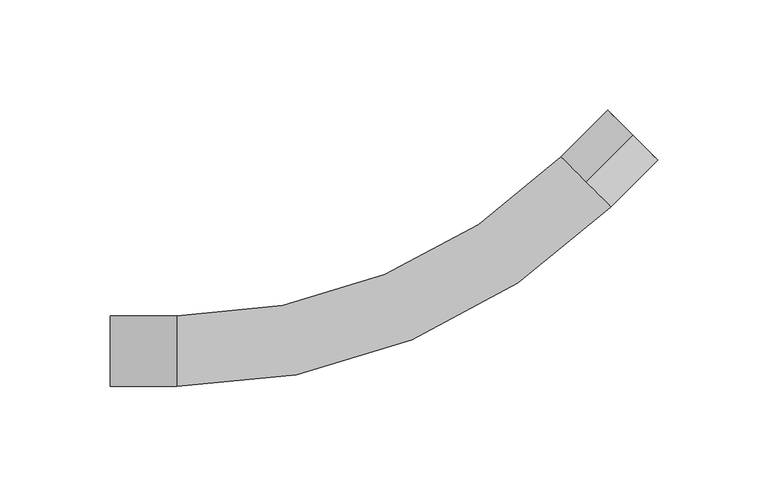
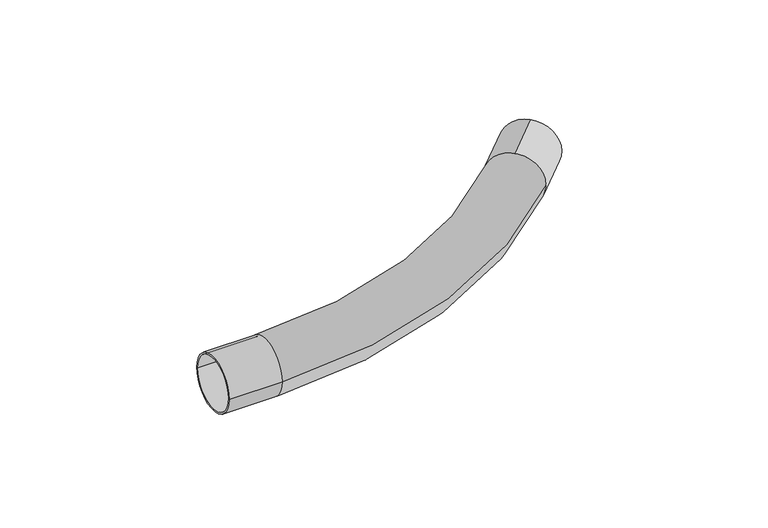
"""IFC4 building model written with IfcOpenShell, lengths in millimetres: cable carrier fitting geometry, КНС_МуфтаГибкаяТрубаТруба_IP64_DKC : Коробка."""

from ifc_helpers import new_model, si_unit, point, frame, origin, place, context, project, spatial, polyline, circle_curve, ellipse_curve, trimmed, source, transform, mapped, element, save
from ifc_brep_helpers import plane_surface, cylinder_surface, revolved_surface, advanced_brep


def cable_carrier_fitting_6df9b579(model_context):
    return source(origin(), model_context, "Body", "AdvancedBrep", [
        advanced_brep(
        [(-138.642976, -16.0, 0.0), (-138.642976, 16.0, 0.0), (-138.642976, -15.0, 0.0), (-138.642976, 15.0, 0.0), (-108.642976, -16.0, 0.0), (-108.642976, 16.0, 0.0), (-108.642976, -15.0, 0.0), (-108.642976, 15.0, 0.0), (76.8221851, 76.8221851, 15.0), (76.8221851, 76.8221851, -15.0), (88.1358936, 65.5084766, 0.0), (76.8221851, 76.8221851, 16.0), (65.5084766, 88.1358936, 0.0), (76.8221851, 76.8221851, -16.0), (98.0353885, 98.0353885, -16.0), (98.0353885, 98.0353885, 16.0), (98.0353885, 98.0353885, -15.0), (98.0353885, 98.0353885, 15.0)],
        [
            (0, 1, circle_curve(frame((-138.642976, 0.0, 0.0), z_axis=(-1.0, 0.0, 0.0), x_axis=(0.0, 1.0, 0.0)), 16.0)),
            (1, 0, circle_curve(frame((-138.642976, 0.0, 0.0), z_axis=(-1.0, 0.0, 0.0), x_axis=(0.0, 1.0, 0.0)), 16.0)),
            (2, 3, circle_curve(frame((-138.642976, 0.0, 0.0), z_axis=(1.0, 0.0, 0.0), x_axis=(0.0, 1.0, 0.0)), 15.0)),
            (3, 2, circle_curve(frame((-138.642976, 0.0, 0.0), z_axis=(1.0, 0.0, 0.0), x_axis=(0.0, 1.0, 0.0)), 15.0)),
            (0, 4),
            (4, 5, circle_curve(frame((-108.642976, 0.0, 0.0), z_axis=(-1.0, 0.0, 0.0), x_axis=(0.0, 1.0, 0.0)), 16.0)),
            (5, 1),
            (5, 4, circle_curve(frame((-108.642976, 0.0, 0.0), z_axis=(-1.0, 0.0, 0.0), x_axis=(0.0, 1.0, 0.0)), 16.0)),
            (2, 6),
            (6, 7, circle_curve(frame((-108.642976, 0.0, 0.0), z_axis=(1.0, 0.0, 0.0), x_axis=(0.0, 1.0, 0.0)), 15.0)),
            (7, 3),
            (7, 6, circle_curve(frame((-108.642976, 0.0, 0.0), z_axis=(1.0, 0.0, 0.0), x_axis=(0.0, 1.0, 0.0)), 15.0)),
            (8, 9, circle_curve(frame((76.8221851, 76.8221851, 0.0), z_axis=(0.7071067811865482, 0.707106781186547, 0.0), x_axis=(0.0, 0.0, 1.0)), 15.0)),
            (9, 8, circle_curve(frame((76.8221851, 76.8221851, 0.0), z_axis=(0.7071067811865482, 0.707106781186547, 0.0), x_axis=(0.0, 0.0, 1.0)), 15.0)),
            (4, 10, circle_curve(frame((-108.642976, 262.2873462, 0.0), z_axis=(0.0, 0.0, 1.0), x_axis=(0.7071067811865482, -0.7071067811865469, 0.0)), 278.2873462)),
            (10, 11, circle_curve(frame((76.8221851, 76.8221851, 0.0), z_axis=(-0.7071067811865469, -0.7071067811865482, 0.0), x_axis=(0.7071067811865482, -0.7071067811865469, 0.0)), 16.0)),
            (11, 12, circle_curve(frame((76.8221851, 76.8221851, 0.0), z_axis=(-0.7071067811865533, -0.7071067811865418, 0.0), x_axis=(0.7071067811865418, -0.7071067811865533, 0.0)), 16.0)),
            (12, 5, circle_curve(frame((-108.642976, 262.2873462, 0.0), z_axis=(0.0, 0.0, -1.0), x_axis=(0.7071067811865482, -0.7071067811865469, 0.0)), 246.2873462)),
            (12, 13, circle_curve(frame((76.8221851, 76.8221851, 0.0), z_axis=(-0.7071067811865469, -0.7071067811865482, 0.0), x_axis=(0.7071067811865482, -0.7071067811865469, 0.0)), 16.0)),
            (13, 10, circle_curve(frame((76.8221851, 76.8221851, 0.0), z_axis=(-0.7071067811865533, -0.7071067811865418, 0.0), x_axis=(0.7071067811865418, -0.7071067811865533, 0.0)), 16.0)),
            (14, 15, circle_curve(frame((98.0353885, 98.0353885, 0.0), z_axis=(0.7071067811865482, 0.707106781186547, 0.0), x_axis=(0.0, 0.0, 1.0)), 16.0)),
            (15, 14, circle_curve(frame((98.0353885, 98.0353885, 0.0), z_axis=(0.7071067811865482, 0.707106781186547, 0.0), x_axis=(0.0, 0.0, 1.0)), 16.0)),
            (16, 17, circle_curve(frame((98.0353885, 98.0353885, 0.0), z_axis=(-0.7071067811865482, -0.707106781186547, 0.0), x_axis=(0.0, 0.0, 1.0)), 15.0)),
            (17, 16, circle_curve(frame((98.0353885, 98.0353885, 0.0), z_axis=(-0.7071067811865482, -0.707106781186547, 0.0), x_axis=(0.0, 0.0, 1.0)), 15.0)),
            (14, 13),
            (11, 15),
            (16, 9),
            (8, 17),
        ],
        [
            plane_surface(frame((-138.642976, 0.0, 0.0), z_axis=(-1.0, 0.0, 0.0), x_axis=(0.0, 0.0, 1.0))),
            cylinder_surface(frame((-138.642976, 0.0, 0.0), z_axis=(-1.0, 0.0, 0.0), x_axis=(0.0, 1.0, 0.0)), 16.0),
            revolved_surface(polyline([(-108.642976, 15.0, 0.0), (-138.642976, 15.0, 0.0)]), (-138.642976, 0.0, 0.0), (1.0, 0.0, 0.0)),
            plane_surface(frame((76.8221851, 76.8221851, 0.0), z_axis=(0.7071067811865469, 0.7071067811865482, 0.0), x_axis=(0.0, 0.0, 1.0))),
            plane_surface(frame((-108.642976, 0.0, 0.0), z_axis=(-1.0, 0.0, 0.0), x_axis=(0.0, 0.0, 1.0))),
            revolved_surface(trimmed(ellipse_curve(frame((76.8221851, 76.8221851, 0.0), z_axis=(0.7071067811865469, 0.7071067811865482, 0.0), x_axis=(0.7071067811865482, -0.7071067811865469, 0.0)), 16.0, 16.0), [point((65.5084766, 88.1358936, 0.0))], [point((88.1358936, 65.5084766, 0.0))], True, "CARTESIAN"), (-108.642976, 262.2873462, 0.0), (0.0, 0.0, -1.0)),
            revolved_surface(trimmed(ellipse_curve(frame((76.8221851, 76.8221851, 0.0), z_axis=(0.7071067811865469, 0.7071067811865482, 0.0), x_axis=(0.7071067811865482, -0.7071067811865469, 0.0)), 16.0, 16.0), [point((88.1358936, 65.5084766, 0.0))], [point((65.5084766, 88.1358936, 0.0))], True, "CARTESIAN"), (-108.642976, 262.2873462, 0.0), (0.0, 0.0, -1.0)),
            plane_surface(frame((98.0353885, 98.0353885, 16.0), z_axis=(0.7071067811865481, 0.7071067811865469, 0.0), x_axis=(0.7071067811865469, -0.7071067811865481, 0.0))),
            cylinder_surface(frame((76.8221851, 76.8221851, 0.0), z_axis=(0.7071067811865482, 0.707106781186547, 0.0), x_axis=(0.0, 0.0, 1.0)), 16.0),
            revolved_surface(polyline([(76.8221851, 76.8221851, 15.0), (98.03538850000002, 98.03538849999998, 15.0)]), (76.8221851, 76.8221851, 0.0), (-0.7071067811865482, -0.707106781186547, 0.0)),
        ],
        [
            (0, [[1, 2], [3, 4]]),
            (1, [[-1, 5, 6, 7]]),
            (1, [[-2, -7, 8, -5]]),
            (2, [[-3, 9, 10, 11]]),
            (2, [[-4, -11, 12, -9]]),
            (3, [[13, 14]]),
            (4, [[-10, -12]]),
            (5, [[15, 16, 17, 18, -6]]),
            (6, [[-15, -8, -18, 19, 20]]),
            (7, [[21, 22], [23, 24]]),
            (8, [[-21, 25, -19, -17, 26]]),
            (8, [[-22, -26, -16, -20, -25]]),
            (9, [[-23, 27, -13, 28]]),
            (9, [[-24, -28, -14, -27]]),
        ],
    ),
    ])


if __name__ == "__main__":
    model = new_model("IFC4")
    model_context = context("Model", 3, world=origin())
    ifc_project = project(units=[si_unit("LENGTHUNIT", "METRE", prefix="MILLI")], contexts=[model_context])
    site = spatial("IfcSite", under=ifc_project)
    building = spatial("IfcBuilding", under=site)
    placement = place(None, origin())
    cable_carrier_fitting_shape = cable_carrier_fitting_6df9b579(model_context)
    element("IfcCableCarrierFitting", 1, ObjectType="КНС_МуфтаГибкаяТрубаТруба_IP64_DKC : Коробка", at=placement, inside=building, context=model_context, shape_type="MappedRepresentation", body=[
        mapped(cable_carrier_fitting_shape, transform((0.0, 0.0, 0.0), x_axis=(1.0, 0.0, 0.0), y_axis=(0.0, 1.0, 0.0), z_axis=(0.0, 0.0, 1.0))),
    ])
    save(model, "model.ifc")
